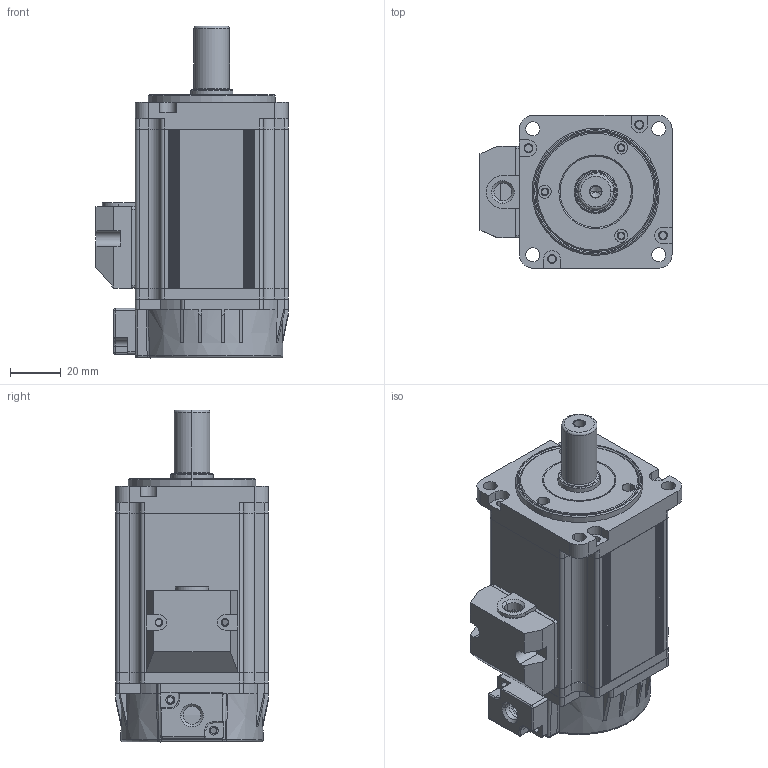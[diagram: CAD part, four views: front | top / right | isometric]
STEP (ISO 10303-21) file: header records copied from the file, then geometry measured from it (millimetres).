
FILE_DESCRIPTION((''),'2;1');
FILE_NAME('60-CB200W_ASM','2020-04-07T',('Administrator'),(''),'PRO/ENGINEER BY PARAMETRIC TECHNOLOGY CORPORATION, 2009440','PRO/ENGINEER BY PARAMETRIC TECHNOLOGY CORPORATION, 2009440','');
FILE_SCHEMA(('CONFIG_CONTROL_DESIGN'));
Length unit declared in the file: millimetre
Products named in the file (14): ML60-200W-JK; DYX-CT; DYX-YXH; ML60-400W-DZ_ASM; ML60-400W-CB; ML60-400-Z_ASM; ML60-QDG; 60-ZYG; GB-T9877-17X28X4; ML60-Q_ASM; 60-CB-H; 60-NKMF; XHX; 60-CB200W_ASM
Assembly tree (13 placements, depth 3):
  60-CB200W_ASM
    ML60-400W-DZ_ASM
      ML60-200W-JK
      DYX-CT
      DYX-YXH
    ML60-400-Z_ASM
      ML60-400W-CB
    ML60-Q_ASM
      ML60-QDG
      60-ZYG
      GB-T9877-17X28X4
    60-CB-H
    60-NKMF
    XHX
Bounding box: 75.5 x 60 x 130.5 mm (x, y, z)
Volume: 140724.7 mm3; surface area: 91835.2 mm2
Topology: 10 solids, 12 shells, 1193 faces, 3062 edges, 1951 vertices
Faces by surface type: plane 535, cylinder 417, cone 141, torus 89, sphere 6, bspline 5
Entity records: 37367 total; most frequent: CARTESIAN_POINT 7141, DIRECTION 6495, ORIENTED_EDGE 6108, EDGE_CURVE 3058, AXIS2_PLACEMENT_3D 2336, VERTEX_POINT 1951, VECTOR 1823, LINE 1823
